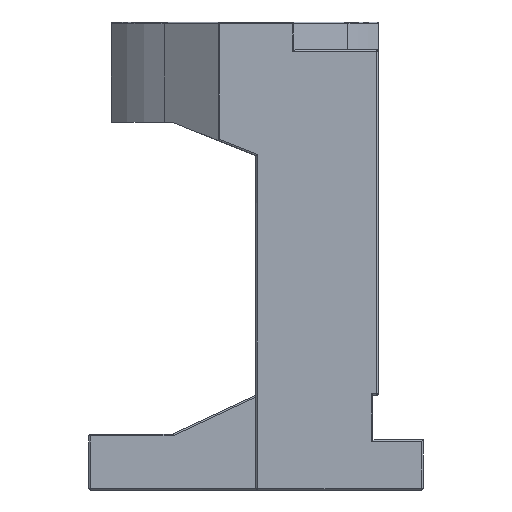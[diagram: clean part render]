
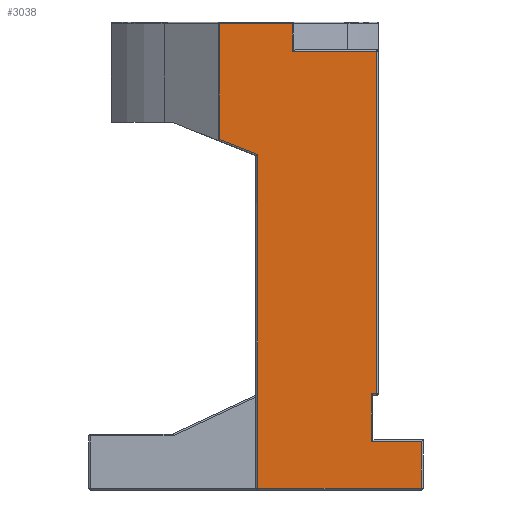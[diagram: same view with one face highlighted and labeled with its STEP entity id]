
A CAD part, left-side view. The second image highlights one B-rep face of the part: STEP entity #3038.
In plain terms, the highlighted planar face has unit normal (-1, 0, 0).
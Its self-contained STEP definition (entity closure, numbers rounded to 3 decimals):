
#55 = LINE ( 'NONE', #3059, #1459 ) ;
#179 = DIRECTION ( 'NONE',  ( 0., 0., -1. ) ) ;
#180 = EDGE_CURVE ( 'NONE', #4783, #2569, #3784, .T. ) ;
#412 = LINE ( 'NONE', #6647, #1612 ) ;
#431 = ORIENTED_EDGE ( 'NONE', *, *, #5740, .T. ) ;
#439 = VECTOR ( 'NONE', #4003, 1000. ) ;
#446 = CARTESIAN_POINT ( 'NONE',  ( -35., 26., 12.3 ) ) ;
#474 = VERTEX_POINT ( 'NONE', #4174 ) ;
#575 = ORIENTED_EDGE ( 'NONE', *, *, #4069, .T. ) ;
#816 = CARTESIAN_POINT ( 'NONE',  ( -35., -6.599, 73.7 ) ) ;
#843 = ORIENTED_EDGE ( 'NONE', *, *, #4330, .T. ) ;
#1143 = LINE ( 'NONE', #446, #2687 ) ;
#1150 = CARTESIAN_POINT ( 'NONE',  ( -35., 6.599, 73. ) ) ;
#1329 = ORIENTED_EDGE ( 'NONE', *, *, #2450, .T. ) ;
#1459 = VECTOR ( 'NONE', #6707, 1000. ) ;
#1499 = ORIENTED_EDGE ( 'NONE', *, *, #3433, .T. ) ;
#1569 = ORIENTED_EDGE ( 'NONE', *, *, #180, .T. ) ;
#1570 = CARTESIAN_POINT ( 'NONE',  ( -35., -21.7, 12.3 ) ) ;
#1610 = CARTESIAN_POINT ( 'NONE',  ( -35., -0.3, 55.203 ) ) ;
#1612 = VECTOR ( 'NONE', #6605, 1000. ) ;
#1678 = VERTEX_POINT ( 'NONE', #1876 ) ;
#1747 = EDGE_CURVE ( 'NONE', #3455, #2477, #412, .T. ) ;
#1772 = EDGE_CURVE ( 'NONE', #4629, #1678, #55, .T. ) ;
#1795 = LINE ( 'NONE', #1150, #5664 ) ;
#1871 = FACE_OUTER_BOUND ( 'NONE', #5293, .T. ) ;
#1876 = CARTESIAN_POINT ( 'NONE',  ( -35., -0.3, -4.7 ) ) ;
#1981 = EDGE_CURVE ( 'NONE', #1678, #4431, #6030, .T. ) ;
#2031 = VERTEX_POINT ( 'NONE', #1570 ) ;
#2049 = LINE ( 'NONE', #6185, #4555 ) ;
#2291 = ORIENTED_EDGE ( 'NONE', *, *, #1772, .T. ) ;
#2356 = LINE ( 'NONE', #2936, #5031 ) ;
#2450 = EDGE_CURVE ( 'NONE', #4431, #474, #3196, .T. ) ;
#2472 = CARTESIAN_POINT ( 'NONE',  ( -35., -21.7, 73.7 ) ) ;
#2477 = VERTEX_POINT ( 'NONE', #3028 ) ;
#2539 = VERTEX_POINT ( 'NONE', #2472 ) ;
#2569 = VERTEX_POINT ( 'NONE', #2918 ) ;
#2601 = EDGE_CURVE ( 'NONE', #5588, #3455, #2049, .T. ) ;
#2604 = VECTOR ( 'NONE', #4535, 1000. ) ;
#2687 = VECTOR ( 'NONE', #2992, 1000. ) ;
#2808 = EDGE_CURVE ( 'NONE', #2477, #5157, #1795, .T. ) ;
#2918 = CARTESIAN_POINT ( 'NONE',  ( -35., -20.7, 12.3 ) ) ;
#2936 = CARTESIAN_POINT ( 'NONE',  ( -35., 26., 3.7 ) ) ;
#2973 = DIRECTION ( 'NONE',  ( 0., 0., 1. ) ) ;
#2992 = DIRECTION ( 'NONE',  ( 0., -1., 0. ) ) ;
#3028 = CARTESIAN_POINT ( 'NONE',  ( -35., 6.599, 78.7 ) ) ;
#3038 = ADVANCED_FACE ( 'NONE', ( #1871 ), #4853, .F. ) ;
#3059 = CARTESIAN_POINT ( 'NONE',  ( -35., -0.3, 73. ) ) ;
#3182 = VECTOR ( 'NONE', #5628, 1000. ) ;
#3196 = LINE ( 'NONE', #3987, #439 ) ;
#3261 = CARTESIAN_POINT ( 'NONE',  ( -35., -20.7, 73. ) ) ;
#3264 = DIRECTION ( 'NONE',  ( 0., 1., 0. ) ) ;
#3433 = EDGE_CURVE ( 'NONE', #5157, #4629, #4857, .T. ) ;
#3442 = VECTOR ( 'NONE', #4099, 1000. ) ;
#3455 = VERTEX_POINT ( 'NONE', #3464 ) ;
#3464 = CARTESIAN_POINT ( 'NONE',  ( -35., -6.599, 78.7 ) ) ;
#3594 = DIRECTION ( 'NONE',  ( 0., -1., 0. ) ) ;
#3642 = CARTESIAN_POINT ( 'NONE',  ( -35., 26., -4.7 ) ) ;
#3784 = LINE ( 'NONE', #3261, #5189 ) ;
#3987 = CARTESIAN_POINT ( 'NONE',  ( -35., -29.7, 73. ) ) ;
#4003 = DIRECTION ( 'NONE',  ( 0., 0., 1. ) ) ;
#4069 = EDGE_CURVE ( 'NONE', #2031, #2539, #5737, .T. ) ;
#4099 = DIRECTION ( 'NONE',  ( 0., -0.928, -0.371 ) ) ;
#4174 = CARTESIAN_POINT ( 'NONE',  ( -35., -29.7, 3.7 ) ) ;
#4180 = CARTESIAN_POINT ( 'NONE',  ( -35., -20.7, 3.7 ) ) ;
#4222 = CARTESIAN_POINT ( 'NONE',  ( -35., 6.599, 57.963 ) ) ;
#4330 = EDGE_CURVE ( 'NONE', #474, #4783, #2356, .T. ) ;
#4431 = VERTEX_POINT ( 'NONE', #6567 ) ;
#4510 = CARTESIAN_POINT ( 'NONE',  ( -35., -21.7, 73. ) ) ;
#4535 = DIRECTION ( 'NONE',  ( 0., 0., 1. ) ) ;
#4555 = VECTOR ( 'NONE', #5673, 1000. ) ;
#4629 = VERTEX_POINT ( 'NONE', #1610 ) ;
#4783 = VERTEX_POINT ( 'NONE', #4180 ) ;
#4853 = PLANE ( 'NONE',  #5685 ) ;
#4857 = LINE ( 'NONE', #5086, #3442 ) ;
#4878 = CARTESIAN_POINT ( 'NONE',  ( -35., 26., 73. ) ) ;
#4894 = DIRECTION ( 'NONE',  ( 1., 0., 0. ) ) ;
#5031 = VECTOR ( 'NONE', #3264, 1000. ) ;
#5086 = CARTESIAN_POINT ( 'NONE',  ( -35., -0.111, 55.279 ) ) ;
#5155 = DIRECTION ( 'NONE',  ( 0., 1., 0. ) ) ;
#5157 = VERTEX_POINT ( 'NONE', #4222 ) ;
#5189 = VECTOR ( 'NONE', #2973, 1000. ) ;
#5285 = ORIENTED_EDGE ( 'NONE', *, *, #1981, .T. ) ;
#5293 = EDGE_LOOP ( 'NONE', ( #6188, #6332, #6556, #6713, #1499, #2291, #5285, #1329, #843, #1569, #431, #575 ) ) ;
#5588 = VERTEX_POINT ( 'NONE', #816 ) ;
#5628 = DIRECTION ( 'NONE',  ( 0., 1., 0. ) ) ;
#5664 = VECTOR ( 'NONE', #179, 1000. ) ;
#5673 = DIRECTION ( 'NONE',  ( 0., 0., 1. ) ) ;
#5685 = AXIS2_PLACEMENT_3D ( 'NONE', #4878, #4894, #5155 ) ;
#5737 = LINE ( 'NONE', #4510, #2604 ) ;
#5740 = EDGE_CURVE ( 'NONE', #2569, #2031, #1143, .T. ) ;
#5864 = VECTOR ( 'NONE', #3594, 1000. ) ;
#5964 = LINE ( 'NONE', #6156, #3182 ) ;
#6030 = LINE ( 'NONE', #3642, #5864 ) ;
#6156 = CARTESIAN_POINT ( 'NONE',  ( -35., -6.695, 73.7 ) ) ;
#6167 = EDGE_CURVE ( 'NONE', #2539, #5588, #5964, .T. ) ;
#6185 = CARTESIAN_POINT ( 'NONE',  ( -35., -6.599, 79. ) ) ;
#6188 = ORIENTED_EDGE ( 'NONE', *, *, #6167, .T. ) ;
#6332 = ORIENTED_EDGE ( 'NONE', *, *, #2601, .T. ) ;
#6556 = ORIENTED_EDGE ( 'NONE', *, *, #1747, .T. ) ;
#6567 = CARTESIAN_POINT ( 'NONE',  ( -35., -29.7, -4.7 ) ) ;
#6605 = DIRECTION ( 'NONE',  ( 0., 1., 0. ) ) ;
#6647 = CARTESIAN_POINT ( 'NONE',  ( -35., 26., 78.7 ) ) ;
#6707 = DIRECTION ( 'NONE',  ( 0., 0., -1. ) ) ;
#6713 = ORIENTED_EDGE ( 'NONE', *, *, #2808, .T. ) ;
